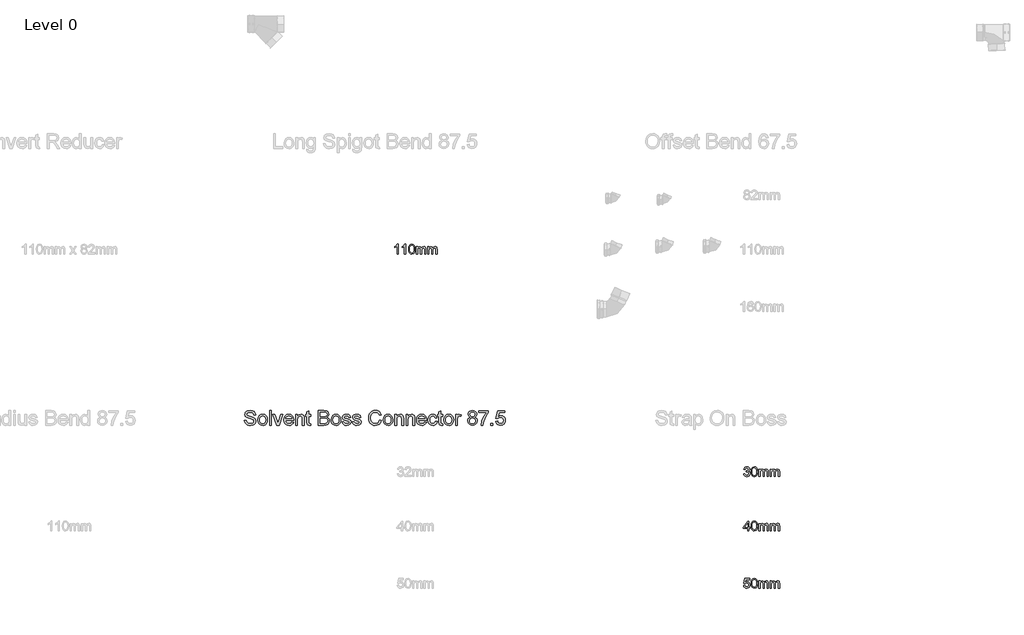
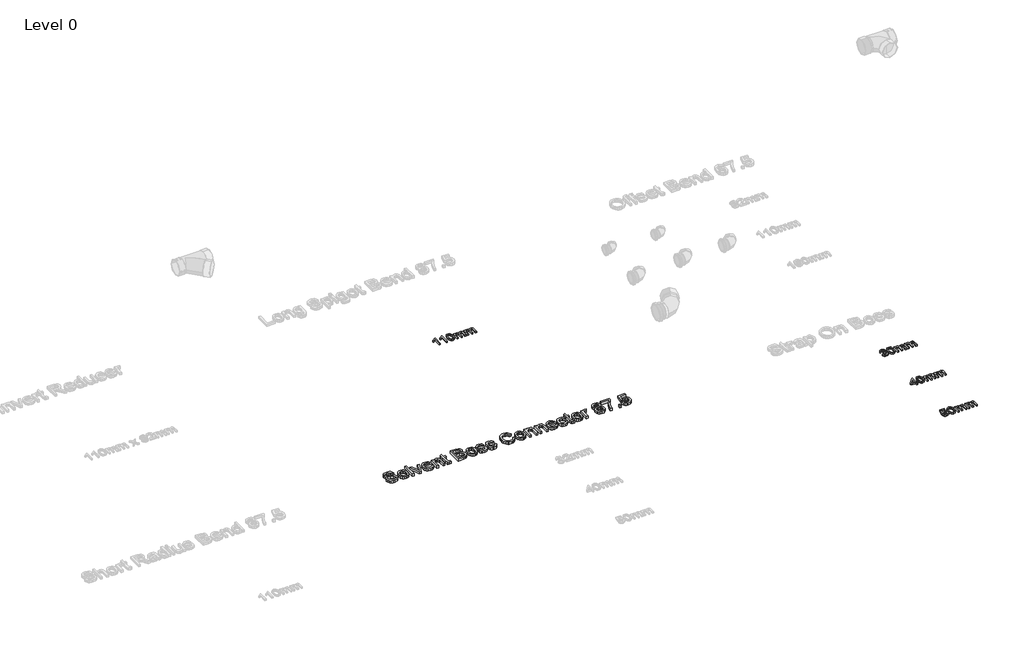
# One storey, part 4 of 28: 5 proxies.
"""IFC4 building model written with IfcOpenShell, lengths in millimetres."""

from ifc_helpers import new_model, si_unit, origin, origin_with_axes, place, context, project, spatial, polyline, outline, extrude, element, save

model = new_model("IFC4")

# Units and contexts
model_context = context("Model", 3, world=origin())
ifc_project = project(units=[si_unit("LENGTHUNIT", "METRE", prefix="MILLI")], contexts=[model_context])

# Site, building, storey
site = spatial("IfcSite", under=ifc_project)
building = spatial("IfcBuilding", under=site)
storey = spatial("IfcBuildingStorey", under=building, Name="Level 0", Elevation=0.0)

# Proxies
placement = place(None, origin())
element("IfcBuildingElementProxy", 1, Name="100mm Arial", ObjectType="100mm Arial", at=placement, inside=storey, context=model_context, shape_type="SweptSolid", body=[
    extrude(outline(polyline([(-13791.7293188, -162.2832696), (-13804.0370111, -162.2832696), (-13804.0370111, -85.5525004), (-13815.6956649, -93.8577889), (-13828.6523957, -100.0717312), (-13828.6523957, -88.4371158), (-13810.6115303, -76.9226927), (-13799.6620111, -63.8217312), (-13791.7293188, -63.8217312), (-13791.7293188, -162.2832696)])), origin_with_axes(), (0.0, 0.0, 1.0), 15.0),
    extrude(outline(polyline([(-13716.3447034, -162.2832696), (-13728.6523957, -162.2832696), (-13728.6523957, -85.5525004), (-13740.3110495, -93.8577889), (-13753.2677803, -100.0717312), (-13753.2677803, -88.4371158), (-13735.2269149, -76.9226927), (-13724.2773957, -63.8217312), (-13716.3447034, -63.8217312), (-13716.3447034, -162.2832696)])), origin_with_axes(), (0.0, 0.0, 1.0), 15.0),
    extrude(outline(polyline([(-13687.1139341, -113.8457696), (-13683.4961457, -85.5164427), (-13672.7509534, -69.1823081), (-13654.8062418, -63.8217312), (-13640.4312418, -66.9948081), (-13630.5033572, -76.1414427), (-13624.7341264, -90.7087504), (-13622.4985495, -113.8457696), (-13626.0802803, -142.0549042), (-13636.7894149, -158.4250965), (-13654.8062418, -163.8217312), (-13667.5947034, -161.4779812), (-13677.3062418, -154.4467312), (-13684.6620111, -137.7940869), (-13687.1139341, -113.8457696)]), holes=[polyline([(-13674.8062418, -113.8217312), (-13673.3639341, -133.1817071), (-13669.0370111, -144.386635), (-13662.5947034, -149.7321879), (-13654.8062418, -151.5140389), (-13647.0177803, -149.7261783), (-13640.5754726, -144.3625965), (-13636.2485495, -133.151659), (-13634.8062418, -113.8217312), (-13636.2004726, -94.8974523), (-13640.3831649, -83.605385), (-13646.8134534, -77.9984139), (-13654.9504726, -76.1294235), (-13662.6547995, -77.7760581), (-13668.8447034, -82.7159619), (-13673.3158572, -94.7111542), (-13674.8062418, -113.8217312)])]), origin_with_axes(), (0.0, 0.0, 1.0), 15.0),
    extrude(outline(polyline([(-13608.6523957, -162.2832696), (-13608.6523957, -89.9755773), (-13596.3447034, -89.9755773), (-13596.3447034, -101.8746158), (-13587.8831649, -92.1270196), (-13575.8398957, -88.4371158), (-13563.5081649, -92.199135), (-13556.7293188, -102.7400004), (-13547.1259534, -92.0128369), (-13534.9985495, -88.4371158), (-13525.7467466, -89.9244956), (-13518.9047995, -94.386635), (-13514.6770351, -101.9437264), (-13513.2677803, -112.7159619), (-13513.2677803, -162.2832696), (-13525.5754726, -162.2832696), (-13525.5754726, -118.0044235), (-13526.7172995, -107.7279812), (-13530.8519149, -102.667885), (-13537.8831649, -100.7448081), (-13549.9865303, -105.6726927), (-13554.8062418, -121.4659619), (-13554.8062418, -162.2832696), (-13567.1139341, -162.2832696), (-13567.1139341, -116.6342312), (-13569.9624918, -104.7111542), (-13579.3014341, -100.7448081), (-13588.4120111, -103.3890389), (-13594.4697034, -111.1294235), (-13596.3447034, -125.8169235), (-13596.3447034, -162.2832696), (-13608.6523957, -162.2832696)])), origin_with_axes(), (0.0, 0.0, 1.0), 15.0),
    extrude(outline(polyline([(-13494.8062418, -162.2832696), (-13494.8062418, -89.9755773), (-13482.4985495, -89.9755773), (-13482.4985495, -101.8746158), (-13474.0370111, -92.1270196), (-13461.9937418, -88.4371158), (-13449.6620111, -92.199135), (-13442.8831649, -102.7400004), (-13433.2797995, -92.0128369), (-13421.1523957, -88.4371158), (-13411.9005928, -89.9244956), (-13405.0586457, -94.386635), (-13400.8308813, -101.9437264), (-13399.4216264, -112.7159619), (-13399.4216264, -162.2832696), (-13411.7293188, -162.2832696), (-13411.7293188, -118.0044235), (-13412.8711457, -107.7279812), (-13417.0057611, -102.667885), (-13424.0370111, -100.7448081), (-13436.1403764, -105.6726927), (-13440.960088, -121.4659619), (-13440.960088, -162.2832696), (-13453.2677803, -162.2832696), (-13453.2677803, -116.6342312), (-13456.116338, -104.7111542), (-13465.4552803, -100.7448081), (-13474.5658572, -103.3890389), (-13480.6235495, -111.1294235), (-13482.4985495, -125.8169235), (-13482.4985495, -162.2832696), (-13494.8062418, -162.2832696)])), origin_with_axes(), (0.0, 0.0, 1.0), 15.0),
])
element("IfcBuildingElementProxy", 2, Name="100mm Arial", ObjectType="100mm Arial", at=placement, inside=storey, context=model_context, shape_type="SweptSolid", body=[
    extrude(outline(polyline([(-10300.1908572, -2387.195749), (-10287.8831649, -2385.6572875), (-10281.0922995, -2398.6140183), (-10268.3879726, -2402.5803644), (-10259.9504726, -2401.2161817), (-10253.4360495, -2397.1236337), (-10247.8831649, -2383.6140183), (-10253.3879726, -2370.8856529), (-10267.3783572, -2365.8495952), (-10276.0081649, -2367.195749), (-10274.6379726, -2354.8880567), (-10272.6668188, -2355.0322875), (-10258.7004726, -2351.4986337), (-10254.0490303, -2347.0154606), (-10252.4985495, -2340.633249), (-10256.9937418, -2331.0058452), (-10268.5802803, -2327.195749), (-10280.3110495, -2331.0419029), (-10286.3447034, -2342.5803644), (-10298.6523957, -2341.0419029), (-10295.0285976, -2329.9902202), (-10288.5802803, -2321.7390183), (-10279.7581649, -2316.6007971), (-10269.0129726, -2314.8880567), (-10254.1692226, -2318.2654606), (-10243.7846072, -2327.4962298), (-10240.1908572, -2339.9120952), (-10243.6043188, -2351.258249), (-10253.7004726, -2359.4072875), (-10240.2870111, -2367.820749), (-10235.5754726, -2383.8303644), (-10237.9312418, -2395.8255567), (-10244.9985495, -2405.8495952), (-10255.6656168, -2412.6284413), (-10268.8206649, -2414.8880567), (-10280.7197034, -2412.9589702), (-10290.4072034, -2407.1717106), (-10297.1439822, -2398.3195471), (-10300.1908572, -2387.195749)])), origin_with_axes(), (0.0, 0.0, 1.0), 15.0),
    extrude(outline(polyline([(-10224.8062418, -2364.9120952), (-10221.1884534, -2336.5827683), (-10210.4432611, -2320.2486337), (-10192.4985495, -2314.8880567), (-10178.1235495, -2318.0611337), (-10168.1956649, -2327.2077683), (-10162.4264341, -2341.775076), (-10160.1908572, -2364.9120952), (-10163.772588, -2393.1212298), (-10174.4817226, -2409.4914221), (-10192.4985495, -2414.8880567), (-10205.2870111, -2412.5443067), (-10214.9985495, -2405.5130567), (-10222.3543188, -2388.8604125), (-10224.8062418, -2364.9120952)]), holes=[polyline([(-10212.4985495, -2364.8880567), (-10211.0562418, -2384.2480327), (-10206.7293188, -2395.4529606), (-10200.2870111, -2400.7985135), (-10192.4985495, -2402.5803644), (-10184.710088, -2400.7925038), (-10178.2677803, -2395.4289221), (-10173.9408572, -2384.2179846), (-10172.4985495, -2364.8880567), (-10173.8927803, -2345.9637779), (-10178.0754726, -2334.6717106), (-10184.5057611, -2329.0647394), (-10192.6427803, -2327.195749), (-10200.3471072, -2328.8423837), (-10206.5370111, -2333.7822875), (-10211.0081649, -2345.7774798), (-10212.4985495, -2364.8880567)])]), origin_with_axes(), (0.0, 0.0, 1.0), 15.0),
    extrude(outline(polyline([(-10146.3447034, -2413.3495952), (-10146.3447034, -2341.0419029), (-10134.0370111, -2341.0419029), (-10134.0370111, -2352.9409413), (-10125.5754726, -2343.1933452), (-10113.5322034, -2339.5034413), (-10101.2004726, -2343.2654606), (-10094.4216264, -2353.806326), (-10084.8182611, -2343.0791625), (-10072.6908572, -2339.5034413), (-10063.4390543, -2340.9908212), (-10056.5971072, -2345.4529606), (-10052.3693428, -2353.0100519), (-10050.960088, -2363.7822875), (-10050.960088, -2413.3495952), (-10063.2677803, -2413.3495952), (-10063.2677803, -2369.070749), (-10064.4096072, -2358.7943067), (-10068.5442226, -2353.7342106), (-10075.5754726, -2351.8111337), (-10087.678838, -2356.7390183), (-10092.4985495, -2372.5322875), (-10092.4985495, -2413.3495952), (-10104.8062418, -2413.3495952), (-10104.8062418, -2367.7005567), (-10107.6547995, -2355.7774798), (-10116.9937418, -2351.8111337), (-10126.1043188, -2354.4553644), (-10132.1620111, -2362.195749), (-10134.0370111, -2376.883249), (-10134.0370111, -2413.3495952), (-10146.3447034, -2413.3495952)])), origin_with_axes(), (0.0, 0.0, 1.0), 15.0),
    extrude(outline(polyline([(-10032.4985495, -2413.3495952), (-10032.4985495, -2341.0419029), (-10020.1908572, -2341.0419029), (-10020.1908572, -2352.9409413), (-10011.7293188, -2343.1933452), (-9999.6860495, -2339.5034413), (-9987.3543188, -2343.2654606), (-9980.5754726, -2353.806326), (-9970.9721072, -2343.0791625), (-9958.8447034, -2339.5034413), (-9949.5929005, -2340.9908212), (-9942.7509534, -2345.4529606), (-9938.5231889, -2353.0100519), (-9937.1139341, -2363.7822875), (-9937.1139341, -2413.3495952), (-9949.4216264, -2413.3495952), (-9949.4216264, -2369.070749), (-9950.5634534, -2358.7943067), (-9954.6980688, -2353.7342106), (-9961.7293188, -2351.8111337), (-9973.8326841, -2356.7390183), (-9978.6523957, -2372.5322875), (-9978.6523957, -2413.3495952), (-9990.960088, -2413.3495952), (-9990.960088, -2367.7005567), (-9993.8086457, -2355.7774798), (-10003.147588, -2351.8111337), (-10012.2581649, -2354.4553644), (-10018.3158572, -2362.195749), (-10020.1908572, -2376.883249), (-10020.1908572, -2413.3495952), (-10032.4985495, -2413.3495952)])), origin_with_axes(), (0.0, 0.0, 1.0), 15.0),
])
element("IfcBuildingElementProxy", 3, Name="100mm Arial", ObjectType="100mm Arial", at=placement, inside=storey, context=model_context, shape_type="SweptSolid", body=[
    extrude(outline(polyline([(-10260.1908572, -2962.2832696), (-10260.1908572, -2939.2063465), (-10304.8062418, -2939.2063465), (-10304.8062418, -2926.8986542), (-10257.1139341, -2865.3601927), (-10247.8831649, -2865.3601927), (-10247.8831649, -2926.8986542), (-10235.5754726, -2926.8986542), (-10235.5754726, -2939.2063465), (-10247.8831649, -2939.2063465), (-10247.8831649, -2962.2832696), (-10260.1908572, -2962.2832696)]), holes=[polyline([(-10260.1908572, -2926.8986542), (-10260.1908572, -2888.8698081), (-10289.6620111, -2926.8986542), (-10260.1908572, -2926.8986542)])]), origin_with_axes(), (0.0, 0.0, 1.0), 15.0),
    extrude(outline(polyline([(-10224.8062418, -2913.8457696), (-10221.1884534, -2885.5164427), (-10210.4432611, -2869.1823081), (-10192.4985495, -2863.8217312), (-10178.1235495, -2866.9948081), (-10168.1956649, -2876.1414427), (-10162.4264341, -2890.7087504), (-10160.1908572, -2913.8457696), (-10163.772588, -2942.0549042), (-10174.4817226, -2958.4250965), (-10192.4985495, -2963.8217312), (-10205.2870111, -2961.4779812), (-10214.9985495, -2954.4467312), (-10222.3543188, -2937.7940869), (-10224.8062418, -2913.8457696)]), holes=[polyline([(-10212.4985495, -2913.8217312), (-10211.0562418, -2933.1817071), (-10206.7293188, -2944.386635), (-10200.2870111, -2949.7321879), (-10192.4985495, -2951.5140389), (-10184.710088, -2949.7261783), (-10178.2677803, -2944.3625965), (-10173.9408572, -2933.151659), (-10172.4985495, -2913.8217312), (-10173.8927803, -2894.8974523), (-10178.0754726, -2883.605385), (-10184.5057611, -2877.9984139), (-10192.6427803, -2876.1294235), (-10200.3471072, -2877.7760581), (-10206.5370111, -2882.7159619), (-10211.0081649, -2894.7111542), (-10212.4985495, -2913.8217312)])]), origin_with_axes(), (0.0, 0.0, 1.0), 15.0),
    extrude(outline(polyline([(-10146.3447034, -2962.2832696), (-10146.3447034, -2889.9755773), (-10134.0370111, -2889.9755773), (-10134.0370111, -2901.8746158), (-10125.5754726, -2892.1270196), (-10113.5322034, -2888.4371158), (-10101.2004726, -2892.199135), (-10094.4216264, -2902.7400004), (-10084.8182611, -2892.0128369), (-10072.6908572, -2888.4371158), (-10063.4390543, -2889.9244956), (-10056.5971072, -2894.386635), (-10052.3693428, -2901.9437264), (-10050.960088, -2912.7159619), (-10050.960088, -2962.2832696), (-10063.2677803, -2962.2832696), (-10063.2677803, -2918.0044235), (-10064.4096072, -2907.7279812), (-10068.5442226, -2902.667885), (-10075.5754726, -2900.7448081), (-10087.678838, -2905.6726927), (-10092.4985495, -2921.4659619), (-10092.4985495, -2962.2832696), (-10104.8062418, -2962.2832696), (-10104.8062418, -2916.6342312), (-10107.6547995, -2904.7111542), (-10116.9937418, -2900.7448081), (-10126.1043188, -2903.3890389), (-10132.1620111, -2911.1294235), (-10134.0370111, -2925.8169235), (-10134.0370111, -2962.2832696), (-10146.3447034, -2962.2832696)])), origin_with_axes(), (0.0, 0.0, 1.0), 15.0),
    extrude(outline(polyline([(-10032.4985495, -2962.2832696), (-10032.4985495, -2889.9755773), (-10020.1908572, -2889.9755773), (-10020.1908572, -2901.8746158), (-10011.7293188, -2892.1270196), (-9999.6860495, -2888.4371158), (-9987.3543188, -2892.199135), (-9980.5754726, -2902.7400004), (-9970.9721072, -2892.0128369), (-9958.8447034, -2888.4371158), (-9949.5929005, -2889.9244956), (-9942.7509534, -2894.386635), (-9938.5231889, -2901.9437264), (-9937.1139341, -2912.7159619), (-9937.1139341, -2962.2832696), (-9949.4216264, -2962.2832696), (-9949.4216264, -2918.0044235), (-9950.5634534, -2907.7279812), (-9954.6980688, -2902.667885), (-9961.7293188, -2900.7448081), (-9973.8326841, -2905.6726927), (-9978.6523957, -2921.4659619), (-9978.6523957, -2962.2832696), (-9990.960088, -2962.2832696), (-9990.960088, -2916.6342312), (-9993.8086457, -2904.7111542), (-10003.147588, -2900.7448081), (-10012.2581649, -2903.3890389), (-10018.3158572, -2911.1294235), (-10020.1908572, -2925.8169235), (-10020.1908572, -2962.2832696), (-10032.4985495, -2962.2832696)])), origin_with_axes(), (0.0, 0.0, 1.0), 15.0),
])
element("IfcBuildingElementProxy", 4, Name="100mm Arial", ObjectType="100mm Arial", at=placement, inside=storey, context=model_context, shape_type="SweptSolid", body=[
    extrude(outline(polyline([(-10300.1908572, -3516.1294235), (-10287.8831649, -3514.5909619), (-10281.6812418, -3527.2712504), (-10268.8206649, -3531.5140389), (-10259.9985495, -3530.0386783), (-10253.3879726, -3525.6125965), (-10249.2593668, -3518.746611), (-10247.8831649, -3509.9515389), (-10253.0394149, -3495.3361542), (-10259.5147755, -3491.3157215), (-10268.6283572, -3489.9755773), (-10279.4336457, -3492.1150004), (-10286.3447034, -3497.667885), (-10298.6523957, -3496.1294235), (-10287.8831649, -3445.3601927), (-10240.1908572, -3445.3601927), (-10240.1908572, -3457.667885), (-10277.9312418, -3457.667885), (-10283.1956649, -3484.7832696), (-10274.4035976, -3479.4467312), (-10265.1908572, -3477.667885), (-10253.6914582, -3479.8734139), (-10244.1451841, -3486.4900004), (-10237.7179005, -3496.574135), (-10235.5754726, -3509.1823081), (-10237.5045591, -3521.4900004), (-10243.2918188, -3532.0188465), (-10254.3735495, -3540.87101), (-10268.8687418, -3543.8217312), (-10280.9570832, -3541.9256975), (-10290.5874918, -3536.2375965), (-10297.1890543, -3527.418486), (-10300.1908572, -3516.1294235)])), origin_with_axes(), (0.0, 0.0, 1.0), 15.0),
    extrude(outline(polyline([(-10224.8062418, -3493.8457696), (-10221.1884534, -3465.5164427), (-10210.4432611, -3449.1823081), (-10192.4985495, -3443.8217312), (-10178.1235495, -3446.9948081), (-10168.1956649, -3456.1414427), (-10162.4264341, -3470.7087504), (-10160.1908572, -3493.8457696), (-10163.772588, -3522.0549042), (-10174.4817226, -3538.4250965), (-10192.4985495, -3543.8217312), (-10205.2870111, -3541.4779812), (-10214.9985495, -3534.4467312), (-10222.3543188, -3517.7940869), (-10224.8062418, -3493.8457696)]), holes=[polyline([(-10212.4985495, -3493.8217312), (-10211.0562418, -3513.1817071), (-10206.7293188, -3524.386635), (-10200.2870111, -3529.7321879), (-10192.4985495, -3531.5140389), (-10184.710088, -3529.7261783), (-10178.2677803, -3524.3625965), (-10173.9408572, -3513.151659), (-10172.4985495, -3493.8217312), (-10173.8927803, -3474.8974523), (-10178.0754726, -3463.605385), (-10184.5057611, -3457.9984139), (-10192.6427803, -3456.1294235), (-10200.3471072, -3457.7760581), (-10206.5370111, -3462.7159619), (-10211.0081649, -3474.7111542), (-10212.4985495, -3493.8217312)])]), origin_with_axes(), (0.0, 0.0, 1.0), 15.0),
    extrude(outline(polyline([(-10146.3447034, -3542.2832696), (-10146.3447034, -3469.9755773), (-10134.0370111, -3469.9755773), (-10134.0370111, -3481.8746158), (-10125.5754726, -3472.1270196), (-10113.5322034, -3468.4371158), (-10101.2004726, -3472.199135), (-10094.4216264, -3482.7400004), (-10084.8182611, -3472.0128369), (-10072.6908572, -3468.4371158), (-10063.4390543, -3469.9244956), (-10056.5971072, -3474.386635), (-10052.3693428, -3481.9437264), (-10050.960088, -3492.7159619), (-10050.960088, -3542.2832696), (-10063.2677803, -3542.2832696), (-10063.2677803, -3498.0044235), (-10064.4096072, -3487.7279812), (-10068.5442226, -3482.667885), (-10075.5754726, -3480.7448081), (-10087.678838, -3485.6726927), (-10092.4985495, -3501.4659619), (-10092.4985495, -3542.2832696), (-10104.8062418, -3542.2832696), (-10104.8062418, -3496.6342312), (-10107.6547995, -3484.7111542), (-10116.9937418, -3480.7448081), (-10126.1043188, -3483.3890389), (-10132.1620111, -3491.1294235), (-10134.0370111, -3505.8169235), (-10134.0370111, -3542.2832696), (-10146.3447034, -3542.2832696)])), origin_with_axes(), (0.0, 0.0, 1.0), 15.0),
    extrude(outline(polyline([(-10032.4985495, -3542.2832696), (-10032.4985495, -3469.9755773), (-10020.1908572, -3469.9755773), (-10020.1908572, -3481.8746158), (-10011.7293188, -3472.1270196), (-9999.6860495, -3468.4371158), (-9987.3543188, -3472.199135), (-9980.5754726, -3482.7400004), (-9970.9721072, -3472.0128369), (-9958.8447034, -3468.4371158), (-9949.5929005, -3469.9244956), (-9942.7509534, -3474.386635), (-9938.5231889, -3481.9437264), (-9937.1139341, -3492.7159619), (-9937.1139341, -3542.2832696), (-9949.4216264, -3542.2832696), (-9949.4216264, -3498.0044235), (-9950.5634534, -3487.7279812), (-9954.6980688, -3482.667885), (-9961.7293188, -3480.7448081), (-9973.8326841, -3485.6726927), (-9978.6523957, -3501.4659619), (-9978.6523957, -3542.2832696), (-9990.960088, -3542.2832696), (-9990.960088, -3496.6342312), (-9993.8086457, -3484.7111542), (-10003.147588, -3480.7448081), (-10012.2581649, -3483.3890389), (-10018.3158572, -3491.1294235), (-10020.1908572, -3505.8169235), (-10020.1908572, -3542.2832696), (-10032.4985495, -3542.2832696)])), origin_with_axes(), (0.0, 0.0, 1.0), 15.0),
])
element("IfcBuildingElementProxy", 5, Name="150mm Arial", ObjectType="150mm Arial", at=placement, inside=storey, context=model_context, shape_type="SweptSolid", body=[
    extrude(outline(polyline([(-15346.7587589, -1844.0162473), (-15328.2972204, -1844.0162473), (-15322.3477012, -1862.4958146), (-15307.8164512, -1874.1785069), (-15285.6770281, -1878.6316319), (-15266.3861627, -1875.2602377), (-15253.92823, -1865.9934108), (-15249.835682, -1853.6075935), (-15252.9005858, -1842.0871608), (-15265.4486627, -1833.7037473), (-15292.3296723, -1826.6544685), (-15321.2659704, -1817.5499012), (-15336.9690954, -1803.8119204), (-15342.1433743, -1785.458555), (-15340.5433142, -1774.6457545), (-15335.7431339, -1764.5631223), (-15327.8690353, -1756.0174492), (-15317.0472204, -1749.8155262), (-15289.679432, -1744.7854781), (-15260.4727012, -1750.0499012), (-15249.2767877, -1756.5493002), (-15241.0015473, -1765.5186512), (-15235.7641675, -1776.3990598), (-15233.6818358, -1788.6316319), (-15252.1433743, -1788.6316319), (-15255.5327973, -1777.6160069), (-15262.600105, -1769.6652858), (-15273.6427733, -1764.8515839), (-15288.9582781, -1763.2470165), (-15304.6343598, -1764.833555), (-15315.3885666, -1769.5931704), (-15321.6085185, -1776.5973771), (-15323.6818358, -1784.9176896), (-15322.2124848, -1792.0120406), (-15317.804432, -1797.7181704), (-15287.6602012, -1808.0306704), (-15254.991932, -1817.2974973), (-15244.467593, -1823.9952137), (-15237.1253454, -1832.2614396), (-15231.3741435, -1853.1388435), (-15233.0282901, -1864.5195526), (-15237.99073, -1875.22418), (-15246.0586387, -1884.4369204), (-15257.0291916, -1891.3419685), (-15284.9558743, -1897.0931704), (-15303.0433142, -1895.5426896), (-15317.9306339, -1890.8912473), (-15329.7891074, -1883.1208146), (-15338.7900089, -1872.2133627), (-15344.5682541, -1858.9261031), (-15346.7587589, -1844.0162473)])), origin_with_axes(), (0.0, 0.0, 1.0), 25.0),
    extrude(outline(polyline([(-15210.6049127, -1840.5547089), (-15206.6115233, -1814.4038675), (-15194.631355, -1796.0234589), (-15179.8296723, -1787.0180502), (-15162.1073166, -1784.0162473), (-15142.7127853, -1787.6715959), (-15127.2214993, -1798.6376415), (-15117.0667517, -1816.0489997), (-15113.6818358, -1839.0402858), (-15115.17823, -1857.6911271), (-15119.6674127, -1871.8888435), (-15127.0186747, -1882.5213555), (-15137.101307, -1890.4765839), (-15149.076968, -1895.4390238), (-15162.1073166, -1897.0931704), (-15181.7362228, -1893.4513435), (-15197.20948, -1882.5258627), (-15207.2560546, -1864.7494204), (-15210.6049127, -1840.5547089)]), holes=[polyline([(-15192.1433743, -1840.5186512), (-15190.006956, -1857.2268843), (-15183.5977012, -1869.13043), (-15173.9522685, -1876.2563314), (-15162.1073166, -1878.6316319), (-15150.3164512, -1876.2428098), (-15140.6890473, -1869.0763435), (-15134.2797925, -1857.0150454), (-15132.1433743, -1839.9417281), (-15134.2933142, -1823.7202738), (-15140.7431339, -1811.9789877), (-15150.3840594, -1804.8530863), (-15162.1073166, -1802.4777858), (-15173.9522685, -1804.8440718), (-15183.5977012, -1811.94293), (-15190.006956, -1823.8194324), (-15192.1433743, -1840.5186512)])]), origin_with_axes(), (0.0, 0.0, 1.0), 25.0),
    extrude(outline(polyline([(-15092.912605, -1894.7854781), (-15092.912605, -1747.0931704), (-15074.4510666, -1747.0931704), (-15074.4510666, -1894.7854781), (-15092.912605, -1894.7854781)])), origin_with_axes(), (0.0, 0.0, 1.0), 25.0),
    extrude(outline(polyline([(-15020.148182, -1894.7854781), (-15058.2972204, -1786.3239396), (-15038.7539512, -1786.3239396), (-15015.6409704, -1851.2999012), (-15008.6818358, -1873.1508627), (-15001.866932, -1852.5258627), (-14978.6097204, -1786.3239396), (-14959.0664512, -1786.3239396), (-14996.7467397, -1894.7854781), (-15020.148182, -1894.7854781)])), origin_with_axes(), (0.0, 0.0, 1.0), 25.0),
    extrude(outline(polyline([(-14866.975105, -1862.4777858), (-14848.8741435, -1864.7854781), (-14855.3960786, -1878.4243002), (-14865.80323, -1888.6196127), (-14879.8612228, -1894.974781), (-14897.335682, -1897.0931704), (-14918.9973406, -1893.4378218), (-14935.6650089, -1882.4717762), (-14946.2930137, -1864.9071728), (-14949.835682, -1841.4561512), (-14946.256956, -1817.2163675), (-14935.5207781, -1799.0883627), (-14919.0784704, -1787.7842762), (-14898.381355, -1784.0162473), (-14878.3287709, -1787.7752617), (-14862.3056339, -1799.052305), (-14851.7993238, -1817.1442521), (-14848.2972204, -1841.3479781), (-14848.4053935, -1846.3239396), (-14931.3741435, -1846.3239396), (-14928.1785305, -1860.1430502), (-14920.7551531, -1870.302305), (-14910.0415113, -1876.5493002), (-14896.975105, -1878.6316319), (-14878.8741435, -1874.7734589), (-14866.975105, -1862.4777858)]), holes=[polyline([(-14931.3741435, -1827.8624012), (-14866.7587589, -1827.8624012), (-14869.2557541, -1818.1087954), (-14874.1505858, -1811.1316319), (-14884.913807, -1804.6412473), (-14898.4534704, -1802.4777858), (-14910.8978815, -1804.2040478), (-14921.1878454, -1809.3828339), (-14928.3407901, -1817.4552497), (-14931.3741435, -1827.8624012)])]), origin_with_axes(), (0.0, 0.0, 1.0), 25.0),
    extrude(outline(polyline([(-14829.835682, -1894.7854781), (-14829.835682, -1786.3239396), (-14811.3741435, -1786.3239396), (-14811.3741435, -1801.4681704), (-14797.257557, -1788.3792281), (-14777.9847204, -1784.0162473), (-14760.5508262, -1787.5318723), (-14748.6517877, -1796.7626415), (-14743.116932, -1810.3383627), (-14742.1433743, -1828.1869204), (-14742.1433743, -1894.7854781), (-14760.6049127, -1894.7854781), (-14760.6049127, -1830.6749012), (-14762.7323166, -1814.3407665), (-14770.2503454, -1805.7049492), (-14782.9246243, -1802.4777858), (-14793.7374247, -1804.2896848), (-14802.9546723, -1809.7253819), (-14809.2692757, -1820.2271848), (-14811.3741435, -1837.2374012), (-14811.3741435, -1894.7854781), (-14829.835682, -1894.7854781)])), origin_with_axes(), (0.0, 0.0, 1.0), 25.0),
    extrude(outline(polyline([(-14677.5279897, -1879.3888435), (-14675.2202973, -1895.3263435), (-14689.0303935, -1897.0931704), (-14704.4991435, -1894.0282665), (-14712.2154897, -1885.9874012), (-14714.4510666, -1865.0378819), (-14714.4510666, -1804.7854781), (-14728.2972204, -1804.7854781), (-14728.2972204, -1786.3239396), (-14714.4510666, -1786.3239396), (-14714.4510666, -1759.9657665), (-14695.9895281, -1749.1124012), (-14695.9895281, -1786.3239396), (-14677.5279897, -1786.3239396), (-14677.5279897, -1804.7854781), (-14695.9895281, -1804.7854781), (-14695.9895281, -1864.4970165), (-14695.0159704, -1874.0162473), (-14691.8609223, -1877.3876415), (-14685.568855, -1878.6316319), (-14677.5279897, -1879.3888435)])), origin_with_axes(), (0.0, 0.0, 1.0), 25.0),
    extrude(outline(polyline([(-14599.0664512, -1894.7854781), (-14599.0664512, -1747.0931704), (-14542.7082781, -1747.0931704), (-14515.1061147, -1751.4381223), (-14505.8302733, -1756.950442), (-14498.8080377, -1764.7974973), (-14492.912605, -1783.6917281), (-14497.8705377, -1800.9453339), (-14512.8525089, -1814.0162473), (-14502.3912709, -1819.4789877), (-14494.6614031, -1827.7902858), (-14489.8882661, -1838.4002617), (-14488.2972204, -1850.7590358), (-14492.6421723, -1870.6087954), (-14503.4053935, -1884.7434108), (-14519.4690954, -1892.2434108), (-14543.1409704, -1894.7854781), (-14599.0664512, -1894.7854781)]), holes=[polyline([(-14580.6049127, -1876.3239396), (-14542.7443358, -1876.3239396), (-14529.0424127, -1875.6027858), (-14517.4498647, -1871.5823531), (-14509.7695762, -1863.3792281), (-14506.7587589, -1850.9393242), (-14510.2924127, -1836.5883627), (-14521.74073, -1828.0246608), (-14544.5472204, -1825.5547089), (-14580.6049127, -1825.5547089), (-14580.6049127, -1876.3239396)]), polyline([(-14580.6049127, -1807.0931704), (-14546.8909704, -1807.0931704), (-14527.2034704, -1805.5066319), (-14515.3585185, -1798.6736992), (-14511.3741435, -1786.6484589), (-14515.0880858, -1774.6051896), (-14525.725105, -1767.4837954), (-14549.4510666, -1765.5547089), (-14580.6049127, -1765.5547089), (-14580.6049127, -1807.0931704)])]), origin_with_axes(), (0.0, 0.0, 1.0), 25.0),
    extrude(outline(polyline([(-14469.835682, -1840.5547089), (-14465.8422925, -1814.4038675), (-14453.8621243, -1796.0234589), (-14439.0604416, -1787.0180502), (-14421.3380858, -1784.0162473), (-14401.9435546, -1787.6715959), (-14386.4522685, -1798.6376415), (-14376.2975209, -1816.0489997), (-14372.912605, -1839.0402858), (-14374.4089993, -1857.6911271), (-14378.898182, -1871.8888435), (-14386.249444, -1882.5213555), (-14396.3320762, -1890.4765839), (-14408.3077372, -1895.4390238), (-14421.3380858, -1897.0931704), (-14440.9669921, -1893.4513435), (-14456.4402493, -1882.5258627), (-14466.4868238, -1864.7494204), (-14469.835682, -1840.5547089)]), holes=[polyline([(-14451.3741435, -1840.5186512), (-14449.2377252, -1857.2268843), (-14442.8284704, -1869.13043), (-14433.1830377, -1876.2563314), (-14421.3380858, -1878.6316319), (-14409.5472204, -1876.2428098), (-14399.9198166, -1869.0763435), (-14393.5105618, -1857.0150454), (-14391.3741435, -1839.9417281), (-14393.5240834, -1823.7202738), (-14399.9739031, -1811.9789877), (-14409.6148286, -1804.8530863), (-14421.3380858, -1802.4777858), (-14433.1830377, -1804.8440718), (-14442.8284704, -1811.94293), (-14449.2377252, -1823.8194324), (-14451.3741435, -1840.5186512)])]), origin_with_axes(), (0.0, 0.0, 1.0), 25.0),
    extrude(outline(polyline([(-14359.0664512, -1862.4777858), (-14340.6049127, -1860.1700935), (-14337.6932541, -1868.0667281), (-14332.0592397, -1873.8720165), (-14312.4799127, -1878.6316319), (-14293.6577973, -1874.2686512), (-14287.5279897, -1864.0282665), (-14293.693855, -1855.7349973), (-14312.6962589, -1850.4705742), (-14340.4967397, -1841.4381223), (-14352.6301531, -1830.8912473), (-14356.7587589, -1815.9994204), (-14353.4414512, -1802.2434108), (-14344.3909704, -1791.7325935), (-14332.6541916, -1786.2698531), (-14316.7707781, -1784.0162473), (-14294.3068358, -1787.6400454), (-14280.0279897, -1797.4477377), (-14273.6818358, -1814.0162473), (-14292.1433743, -1816.3239396), (-14299.08448, -1806.1376415), (-14315.3284704, -1802.4777858), (-14332.9967397, -1805.9753819), (-14338.2972204, -1814.1244204), (-14336.0977012, -1819.4970165), (-14329.210682, -1823.5715358), (-14313.3092397, -1827.5018242), (-14286.2118839, -1836.1917281), (-14273.6277493, -1846.0354781), (-14269.0664512, -1862.0811512), (-14274.4210185, -1879.7494204), (-14289.8717397, -1892.56793), (-14312.7323166, -1897.0931704), (-14331.3471002, -1894.91168), (-14344.9318358, -1888.3672089), (-14354.0003454, -1877.5318723), (-14359.0664512, -1862.4777858)])), origin_with_axes(), (0.0, 0.0, 1.0), 25.0),
    extrude(outline(polyline([(-14255.2202973, -1862.4777858), (-14236.7587589, -1860.1700935), (-14233.8471002, -1868.0667281), (-14228.2130858, -1873.8720165), (-14208.6337589, -1878.6316319), (-14189.8116435, -1874.2686512), (-14183.6818358, -1864.0282665), (-14189.8477012, -1855.7349973), (-14208.850105, -1850.4705742), (-14236.6505858, -1841.4381223), (-14248.7839993, -1830.8912473), (-14252.912605, -1815.9994204), (-14249.5952973, -1802.2434108), (-14240.5448166, -1791.7325935), (-14228.8080377, -1786.2698531), (-14212.9246243, -1784.0162473), (-14190.460682, -1787.6400454), (-14176.1818358, -1797.4477377), (-14169.835682, -1814.0162473), (-14188.2972204, -1816.3239396), (-14195.2383262, -1806.1376415), (-14211.4823166, -1802.4777858), (-14229.1505858, -1805.9753819), (-14234.4510666, -1814.1244204), (-14232.2515473, -1819.4970165), (-14225.3645281, -1823.5715358), (-14209.4630858, -1827.5018242), (-14182.36573, -1836.1917281), (-14169.7815954, -1846.0354781), (-14165.2202973, -1862.0811512), (-14170.5748647, -1879.7494204), (-14186.0255858, -1892.56793), (-14208.8861627, -1897.0931704), (-14227.5009464, -1894.91168), (-14241.085682, -1888.3672089), (-14250.1541916, -1877.5318723), (-14255.2202973, -1862.4777858)])), origin_with_axes(), (0.0, 0.0, 1.0), 25.0),
    extrude(outline(polyline([(-13980.6049127, -1842.2854781), (-13962.1433743, -1847.0450935), (-13970.6620041, -1868.5580141), (-13984.0303935, -1884.2746608), (-14001.5904897, -1893.888543), (-14022.6842397, -1897.0931704), (-14044.0980017, -1894.6682906), (-14061.1037108, -1887.3936512), (-14074.1385666, -1875.521656), (-14083.6397685, -1859.3047089), (-14089.4405497, -1840.239204), (-14091.3741435, -1819.8215358), (-14089.1881459, -1798.286079), (-14082.6301531, -1779.6893242), (-14072.0427132, -1764.6217161), (-14057.7683743, -1753.6736992), (-14040.8392877, -1747.0075334), (-14022.287605, -1744.7854781), (-14002.045718, -1747.661079), (-13985.3104416, -1756.2878819), (-13972.6046122, -1770.1340358), (-13964.4510666, -1788.6676896), (-13982.912605, -1793.0667281), (-13989.3128454, -1779.6036872), (-13998.0568358, -1770.3684108), (-14009.2527493, -1765.0273651), (-14023.0087589, -1763.2470165), (-14038.8651291, -1765.2211752), (-14051.8909704, -1771.1436512), (-14061.7752853, -1780.3924492), (-14068.2070762, -1792.3455742), (-14072.912605, -1819.7854781), (-14067.3416916, -1851.5883627), (-14060.2202973, -1863.4648651), (-14049.9979416, -1871.9068723), (-14037.7428334, -1876.950442), (-14024.523182, -1878.6316319), (-14009.1130257, -1876.3419685), (-13996.27198, -1869.4729781), (-13986.576968, -1858.0967762), (-13980.6049127, -1842.2854781)])), origin_with_axes(), (0.0, 0.0, 1.0), 25.0),
    extrude(outline(polyline([(-13943.6818358, -1840.5547089), (-13939.6884464, -1814.4038675), (-13927.7082781, -1796.0234589), (-13912.9065954, -1787.0180502), (-13895.1842397, -1784.0162473), (-13875.7897084, -1787.6715959), (-13860.2984223, -1798.6376415), (-13850.1436747, -1816.0489997), (-13846.7587589, -1839.0402858), (-13848.2551531, -1857.6911271), (-13852.7443358, -1871.8888435), (-13860.0955978, -1882.5213555), (-13870.17823, -1890.4765839), (-13882.1538911, -1895.4390238), (-13895.1842397, -1897.0931704), (-13914.8131459, -1893.4513435), (-13930.2864031, -1882.5258627), (-13940.3329776, -1864.7494204), (-13943.6818358, -1840.5547089)]), holes=[polyline([(-13925.2202973, -1840.5186512), (-13923.0838791, -1857.2268843), (-13916.6746243, -1869.13043), (-13907.0291916, -1876.2563314), (-13895.1842397, -1878.6316319), (-13883.3933743, -1876.2428098), (-13873.7659704, -1869.0763435), (-13867.3567156, -1857.0150454), (-13865.2202973, -1839.9417281), (-13867.3702372, -1823.7202738), (-13873.820057, -1811.9789877), (-13883.4609824, -1804.8530863), (-13895.1842397, -1802.4777858), (-13907.0291916, -1804.8440718), (-13916.6746243, -1811.94293), (-13923.0838791, -1823.8194324), (-13925.2202973, -1840.5186512)])]), origin_with_axes(), (0.0, 0.0, 1.0), 25.0),
    extrude(outline(polyline([(-13825.9895281, -1894.7854781), (-13825.9895281, -1786.3239396), (-13807.5279897, -1786.3239396), (-13807.5279897, -1801.4681704), (-13793.4114031, -1788.3792281), (-13774.1385666, -1784.0162473), (-13756.7046723, -1787.5318723), (-13744.8056339, -1796.7626415), (-13739.2707781, -1810.3383627), (-13738.2972204, -1828.1869204), (-13738.2972204, -1894.7854781), (-13756.7587589, -1894.7854781), (-13756.7587589, -1830.6749012), (-13758.8861627, -1814.3407665), (-13766.4041916, -1805.7049492), (-13779.0784704, -1802.4777858), (-13789.8912709, -1804.2896848), (-13799.1085185, -1809.7253819), (-13805.4231219, -1820.2271848), (-13807.5279897, -1837.2374012), (-13807.5279897, -1894.7854781), (-13825.9895281, -1894.7854781)])), origin_with_axes(), (0.0, 0.0, 1.0), 25.0),
    extrude(outline(polyline([(-13712.912605, -1894.7854781), (-13712.912605, -1786.3239396), (-13694.4510666, -1786.3239396), (-13694.4510666, -1801.4681704), (-13680.33448, -1788.3792281), (-13661.0616435, -1784.0162473), (-13643.6277493, -1787.5318723), (-13631.7287108, -1796.7626415), (-13626.193855, -1810.3383627), (-13625.2202973, -1828.1869204), (-13625.2202973, -1894.7854781), (-13643.6818358, -1894.7854781), (-13643.6818358, -1830.6749012), (-13645.8092397, -1814.3407665), (-13653.3272685, -1805.7049492), (-13666.0015473, -1802.4777858), (-13676.8143478, -1804.2896848), (-13686.0315954, -1809.7253819), (-13692.3461988, -1820.2271848), (-13694.4510666, -1837.2374012), (-13694.4510666, -1894.7854781), (-13712.912605, -1894.7854781)])), origin_with_axes(), (0.0, 0.0, 1.0), 25.0),
    extrude(outline(polyline([(-13523.898182, -1862.4777858), (-13505.7972204, -1864.7854781), (-13512.3191555, -1878.4243002), (-13522.726307, -1888.6196127), (-13536.7842997, -1894.974781), (-13554.2587589, -1897.0931704), (-13575.9204175, -1893.4378218), (-13592.5880858, -1882.4717762), (-13603.2160906, -1864.9071728), (-13606.7587589, -1841.4561512), (-13603.1800329, -1817.2163675), (-13592.443855, -1799.0883627), (-13576.0015473, -1787.7842762), (-13555.304432, -1784.0162473), (-13535.2518478, -1787.7752617), (-13519.2287108, -1799.052305), (-13508.7224007, -1817.1442521), (-13505.2202973, -1841.3479781), (-13505.3284704, -1846.3239396), (-13588.2972204, -1846.3239396), (-13585.1016074, -1860.1430502), (-13577.67823, -1870.302305), (-13566.9645882, -1876.5493002), (-13553.898182, -1878.6316319), (-13535.7972204, -1874.7734589), (-13523.898182, -1862.4777858)]), holes=[polyline([(-13588.2972204, -1827.8624012), (-13523.6818358, -1827.8624012), (-13526.178831, -1818.1087954), (-13531.0736627, -1811.1316319), (-13541.8368839, -1804.6412473), (-13555.3765473, -1802.4777858), (-13567.8209584, -1804.2040478), (-13578.1109223, -1809.3828339), (-13585.2638671, -1817.4552497), (-13588.2972204, -1827.8624012)])]), origin_with_axes(), (0.0, 0.0, 1.0), 25.0),
    extrude(outline(polyline([(-13417.5279897, -1855.5547089), (-13399.0664512, -1857.8624012), (-13404.2136868, -1874.2821728), (-13413.8861627, -1886.6905262), (-13427.1734223, -1894.4925093), (-13443.1650089, -1897.0931704), (-13462.8029296, -1893.4648651), (-13478.1589993, -1882.5799492), (-13488.0703574, -1864.9161872), (-13491.3741435, -1840.9513435), (-13485.7311147, -1810.2842762), (-13478.6097204, -1798.7863795), (-13468.5315954, -1790.5787473), (-13456.4748046, -1785.6568723), (-13443.4174127, -1784.0162473), (-13427.8179536, -1786.2698531), (-13415.3464993, -1793.0306704), (-13406.3996844, -1803.9381223), (-13401.3741435, -1818.6316319), (-13419.835682, -1820.9393242), (-13428.3993839, -1807.1111992), (-13443.273182, -1802.4777858), (-13455.2037709, -1804.7584348), (-13464.6734223, -1811.6003819), (-13470.8528094, -1823.3732185), (-13472.912605, -1840.4465358), (-13470.8978815, -1857.7497209), (-13464.8537108, -1869.5631223), (-13455.5553334, -1876.3645045), (-13443.7779897, -1878.6316319), (-13434.218194, -1877.2163675), (-13426.3801531, -1872.9705742), (-13420.6785305, -1865.786079), (-13417.5279897, -1855.5547089)])), origin_with_axes(), (0.0, 0.0, 1.0), 25.0),
    extrude(outline(polyline([(-13343.6818358, -1879.3888435), (-13341.3741435, -1895.3263435), (-13355.1842397, -1897.0931704), (-13370.6529897, -1894.0282665), (-13378.3693358, -1885.9874012), (-13380.6049127, -1865.0378819), (-13380.6049127, -1804.7854781), (-13394.4510666, -1804.7854781), (-13394.4510666, -1786.3239396), (-13380.6049127, -1786.3239396), (-13380.6049127, -1759.9657665), (-13362.1433743, -1749.1124012), (-13362.1433743, -1786.3239396), (-13343.6818358, -1786.3239396), (-13343.6818358, -1804.7854781), (-13362.1433743, -1804.7854781), (-13362.1433743, -1864.4970165), (-13361.1698166, -1874.0162473), (-13358.0147685, -1877.3876415), (-13351.7227012, -1878.6316319), (-13343.6818358, -1879.3888435)])), origin_with_axes(), (0.0, 0.0, 1.0), 25.0),
    extrude(outline(polyline([(-13329.835682, -1840.5547089), (-13325.8422925, -1814.4038675), (-13313.8621243, -1796.0234589), (-13299.0604416, -1787.0180502), (-13281.3380858, -1784.0162473), (-13261.9435546, -1787.6715959), (-13246.4522685, -1798.6376415), (-13236.2975209, -1816.0489997), (-13232.912605, -1839.0402858), (-13234.4089993, -1857.6911271), (-13238.898182, -1871.8888435), (-13246.249444, -1882.5213555), (-13256.3320762, -1890.4765839), (-13268.3077372, -1895.4390238), (-13281.3380858, -1897.0931704), (-13300.9669921, -1893.4513435), (-13316.4402493, -1882.5258627), (-13326.4868238, -1864.7494204), (-13329.835682, -1840.5547089)]), holes=[polyline([(-13311.3741435, -1840.5186512), (-13309.2377252, -1857.2268843), (-13302.8284704, -1869.13043), (-13293.1830377, -1876.2563314), (-13281.3380858, -1878.6316319), (-13269.5472204, -1876.2428098), (-13259.9198166, -1869.0763435), (-13253.5105618, -1857.0150454), (-13251.3741435, -1839.9417281), (-13253.5240834, -1823.7202738), (-13259.9739031, -1811.9789877), (-13269.6148286, -1804.8530863), (-13281.3380858, -1802.4777858), (-13293.1830377, -1804.8440718), (-13302.8284704, -1811.94293), (-13309.2377252, -1823.8194324), (-13311.3741435, -1840.5186512)])]), origin_with_axes(), (0.0, 0.0, 1.0), 25.0),
    extrude(outline(polyline([(-13212.1433743, -1894.7854781), (-13212.1433743, -1786.3239396), (-13195.9895281, -1786.3239396), (-13195.9895281, -1802.3696127), (-13184.523182, -1787.5859589), (-13172.9847204, -1784.0162473), (-13154.4510666, -1789.7133627), (-13160.616932, -1806.2638435), (-13173.5977012, -1802.4777858), (-13184.0364031, -1806.1196127), (-13190.6890473, -1816.2157665), (-13193.6818358, -1837.7782665), (-13193.6818358, -1894.7854781), (-13212.1433743, -1894.7854781)])), origin_with_axes(), (0.0, 0.0, 1.0), 25.0),
    extrude(outline(polyline([(-13062.9366435, -1813.4393242), (-13079.757557, -1801.9729781), (-13085.2202973, -1784.1244204), (-13082.2455377, -1769.692329), (-13073.3212589, -1757.7662473), (-13059.4480618, -1749.7614396), (-13041.6265473, -1747.0931704), (-13023.6968598, -1749.8245406), (-13009.6433743, -1758.0186512), (-13000.5568358, -1770.1340358), (-12997.5279897, -1784.6292281), (-13002.9186147, -1802.0270646), (-13019.2707781, -1813.4393242), (-13007.9080978, -1819.294192), (-12999.6373647, -1827.9164877), (-12994.5937949, -1838.8915478), (-12992.912605, -1851.8047089), (-12996.2479416, -1869.4549492), (-13006.2539512, -1884.0402858), (-13021.7046723, -1893.8299492), (-13041.3741435, -1897.0931704), (-13061.0436147, -1893.8164276), (-13076.4943358, -1883.9861992), (-13086.5003454, -1869.2611391), (-13089.835682, -1851.2999012), (-13088.0868839, -1837.8864396), (-13082.8404897, -1826.8527858), (-13074.366932, -1818.5775454), (-13062.9366435, -1813.4393242)]), holes=[polyline([(-13066.7587589, -1784.6652858), (-13065.1226411, -1792.72418), (-13060.2142877, -1799.1604781), (-13052.1779296, -1803.3792281), (-13041.1577973, -1804.7854781), (-13030.3945762, -1803.3882425), (-13022.4799127, -1799.1965358), (-13017.6121243, -1792.9765839), (-13015.9895281, -1785.4946127), (-13017.6662108, -1777.7286872), (-13022.6962589, -1771.3059108), (-13030.7190954, -1766.9925093), (-13041.3741435, -1765.5547089), (-13052.0967997, -1766.9609589), (-13060.1061147, -1771.1797089), (-13065.0955978, -1777.3636031), (-13066.7587589, -1784.6652858)]), polyline([(-13071.3741435, -1850.6508627), (-13068.2912108, -1864.5511031), (-13057.3837589, -1874.9537473), (-13041.2299127, -1878.6316319), (-13028.663807, -1876.6980382), (-13019.2347204, -1870.8972569), (-13013.3392877, -1862.1127016), (-13011.3741435, -1851.2277858), (-13013.4023887, -1840.1580742), (-13019.4871243, -1831.1797089), (-13029.132557, -1825.2301896), (-13041.8428935, -1823.2470165), (-13054.233218, -1825.2031464), (-13063.5676531, -1831.0715358), (-13069.4225209, -1839.8786271), (-13071.3741435, -1850.6508627)])]), origin_with_axes(), (0.0, 0.0, 1.0), 25.0),
    extrude(outline(polyline([(-12976.7587589, -1767.8624012), (-12976.7587589, -1749.4008627), (-12879.835682, -1749.4008627), (-12879.835682, -1764.3287473), (-12907.3296723, -1804.0462954), (-12928.3693358, -1854.6532665), (-12935.2202973, -1894.7854781), (-12953.6818358, -1894.7854781), (-12946.3440954, -1853.1388435), (-12926.2058743, -1806.0655262), (-12898.2972204, -1767.8624012), (-12976.7587589, -1767.8624012)])), origin_with_axes(), (0.0, 0.0, 1.0), 25.0),
    extrude(outline(polyline([(-12854.4510666, -1894.7854781), (-12854.4510666, -1876.3239396), (-12835.9895281, -1876.3239396), (-12835.9895281, -1894.7854781), (-12854.4510666, -1894.7854781)])), origin_with_axes(), (0.0, 0.0, 1.0), 25.0),
    extrude(outline(polyline([(-12805.9895281, -1855.5547089), (-12787.5279897, -1853.2470165), (-12784.1385666, -1864.3302497), (-12778.225105, -1872.2674492), (-12769.8146483, -1877.0405863), (-12758.9342397, -1878.6316319), (-12745.7010666, -1876.4185911), (-12735.7852012, -1869.7794685), (-12729.5922925, -1859.4804901), (-12727.5279897, -1846.2878819), (-12729.4615834, -1833.8660069), (-12735.2623647, -1824.364805), (-12744.9754055, -1818.334156), (-12758.6457781, -1816.3239396), (-12774.8537108, -1819.5330742), (-12785.2202973, -1827.8624012), (-12803.6818358, -1825.5547089), (-12787.5279897, -1749.4008627), (-12715.9895281, -1749.4008627), (-12715.9895281, -1767.8624012), (-12772.600105, -1767.8624012), (-12780.4967397, -1808.5354781), (-12767.3086387, -1800.5306704), (-12753.4895281, -1797.8624012), (-12736.2404296, -1801.1706944), (-12721.9210185, -1811.0955742), (-12712.280093, -1826.2217762), (-12709.0664512, -1845.1340358), (-12711.960081, -1863.5955742), (-12720.6409704, -1879.3888435), (-12737.2635666, -1892.6670887), (-12759.006355, -1897.0931704), (-12777.1388671, -1894.2491199), (-12791.58448, -1885.7169685), (-12801.4868238, -1872.4883026), (-12805.9895281, -1855.5547089)])), origin_with_axes(), (0.0, 0.0, 1.0), 25.0),
])

save(model, "model.ifc")
